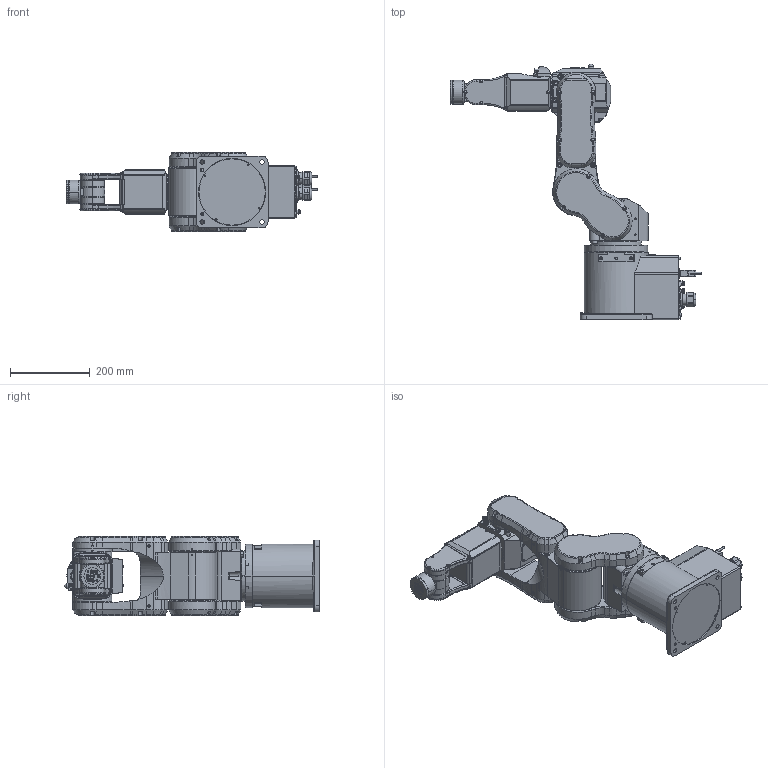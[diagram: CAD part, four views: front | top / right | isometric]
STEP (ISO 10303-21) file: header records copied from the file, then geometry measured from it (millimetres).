
FILE_DESCRIPTION( ( '' ), '1' );
FILE_NAME( '//expscmdclustefs.cadenas.external/client_exchange/iodir/jobs/output/wkb56949967_no0/STEP/C4_A601SR_2_03.stp', '2013-04-17T12:29:30', ( '' ), ( '' ), ' ', ' ', ' ' );
FILE_SCHEMA( ( 'CONFIG_CONTROL_DESIGN' ) );
Length unit declared in the file: millimetre
Products named in the file (7): 1; 2; 3; 4; 5; 6; 7
Bounding box: 629 x 640.46 x 198 mm (x, y, z)
Volume: 16142686.1 mm3; surface area: 921200.2 mm2
Topology: 7 solids, 9 shells, 2465 faces, 6300 edges, 3962 vertices
Faces by surface type: plane 1060, cylinder 900, cone 280, torus 223, sphere 2
Entity records: 77582 total; most frequent: CARTESIAN_POINT 16753, DIRECTION 13271, ORIENTED_EDGE 12322, EDGE_CURVE 6161, AXIS2_PLACEMENT_3D 5027, VERTEX_POINT 3962, LINE 3217, VECTOR 3217
